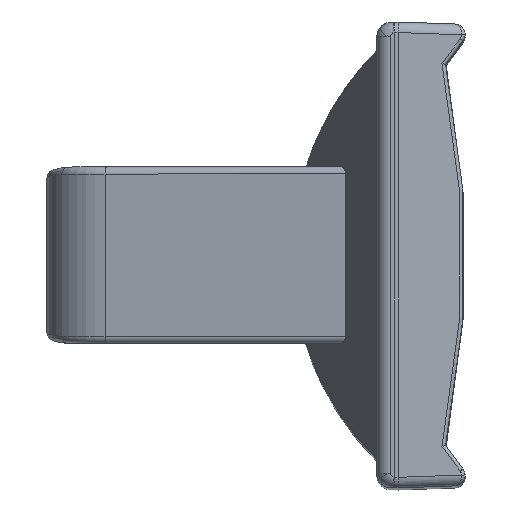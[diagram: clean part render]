
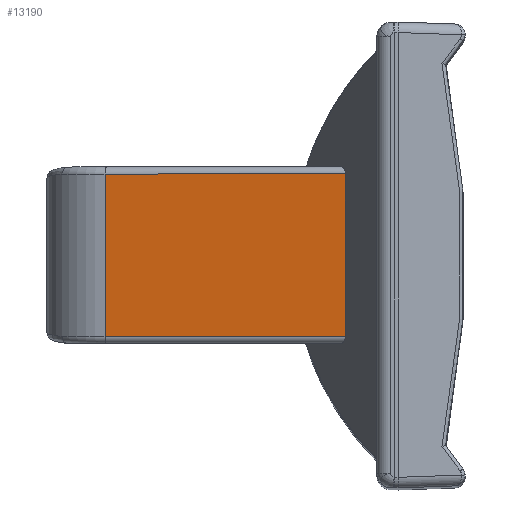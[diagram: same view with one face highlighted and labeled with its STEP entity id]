
A CAD part, top view. The second image highlights one B-rep face of the part: STEP entity #13190.
In plain terms, the highlighted planar face has unit normal (-0.174, 0, 0.985).
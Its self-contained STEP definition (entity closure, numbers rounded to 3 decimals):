
#1241=DIRECTION('',(0.,1.,0.));
#1242=VECTOR('',#1241,23.);
#1243=CARTESIAN_POINT('',(-7.486,-11.5,71.38));
#1244=LINE('',#1243,#1242);
#4527=DIRECTION('',(-0.985,0.,-0.174));
#4528=VECTOR('',#4527,34.543);
#4529=CARTESIAN_POINT('',(-7.486,11.5,71.38));
#4530=LINE('',#4529,#4528);
#4542=DIRECTION('',(0.,1.,0.));
#4543=VECTOR('',#4542,23.);
#4544=CARTESIAN_POINT('',(-41.505,-11.5,65.381));
#4545=LINE('',#4544,#4543);
#4549=CARTESIAN_POINT('',(-7.486,-11.5,71.38));
#4559=DIRECTION('',(0.985,0.,0.174));
#4560=VECTOR('',#4559,34.543);
#4561=CARTESIAN_POINT('',(-41.505,-11.5,65.381));
#4562=LINE('',#4561,#4560);
#6231=VERTEX_POINT('',#4549);
#6232=CARTESIAN_POINT('',(-7.486,11.5,71.38));
#6233=VERTEX_POINT('',#6232);
#6646=CARTESIAN_POINT('',(-41.505,11.5,65.381));
#6647=VERTEX_POINT('',#6646);
#6648=CARTESIAN_POINT('',(-41.505,-11.5,65.381));
#6649=VERTEX_POINT('',#6648);
#13177=CARTESIAN_POINT('',(-7.244,12.5,71.422));
#13178=DIRECTION('',(-0.174,0.,0.985));
#13179=DIRECTION('',(-0.985,0.,-0.174));
#13180=AXIS2_PLACEMENT_3D('',#13177,#13178,#13179);
#13181=PLANE('',#13180);
#13182=ORIENTED_EDGE('',*,*,#8332,.F.);
#13184=ORIENTED_EDGE('',*,*,#13183,.F.);
#13186=ORIENTED_EDGE('',*,*,#13185,.T.);
#13187=ORIENTED_EDGE('',*,*,#13169,.F.);
#13188=EDGE_LOOP('',(#13182,#13184,#13186,#13187));
#13189=FACE_OUTER_BOUND('',#13188,.F.);
#13190=ADVANCED_FACE('',(#13189),#13181,.T.);
#8332=EDGE_CURVE('',#6231,#6233,#1244,.T.);
#13169=EDGE_CURVE('',#6233,#6647,#4530,.T.);
#13183=EDGE_CURVE('',#6649,#6231,#4562,.T.);
#13185=EDGE_CURVE('',#6649,#6647,#4545,.T.);
